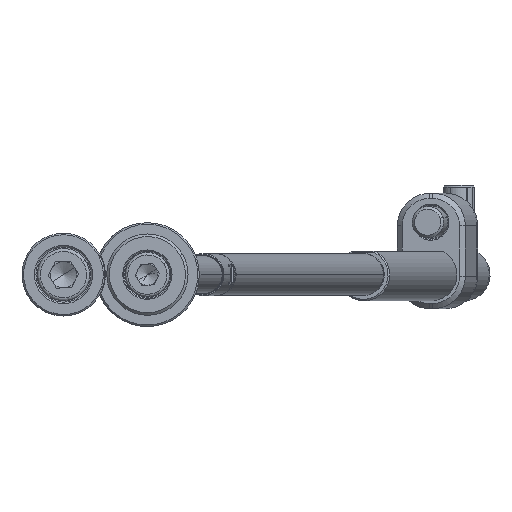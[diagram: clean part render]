
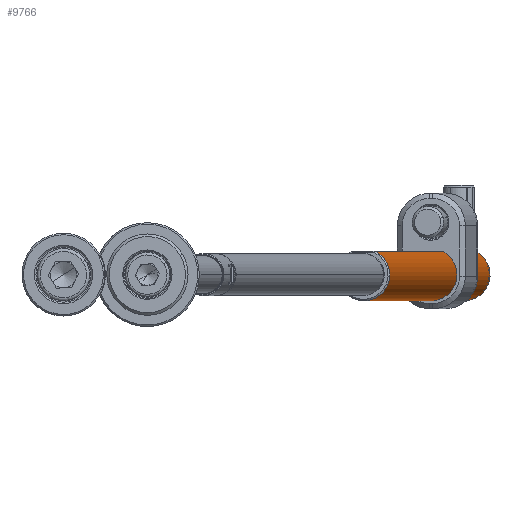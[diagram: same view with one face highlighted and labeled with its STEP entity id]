
A CAD part, front view. The second image highlights one B-rep face of the part: STEP entity #9766.
In plain terms, the highlighted cylindrical face has radius 5 mm (diameter 10 mm), a partial arc.
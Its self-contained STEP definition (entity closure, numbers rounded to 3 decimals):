
#122 = AXIS2_PLACEMENT_3D ( 'NONE', #2699, #10326, #3646 ) ;
#201 = CARTESIAN_POINT ( 'NONE',  ( 4.259, -2.621, 11.47 ) ) ;
#226 = CARTESIAN_POINT ( 'NONE',  ( 4.5, -2.179, 200. ) ) ;
#270 = CARTESIAN_POINT ( 'NONE',  ( 4.014, -2.982, 9.617 ) ) ;
#493 = CARTESIAN_POINT ( 'NONE',  ( -5., 0., 199.7 ) ) ;
#627 = VERTEX_POINT ( 'NONE', #493 ) ;
#724 = CARTESIAN_POINT ( 'NONE',  ( 4.438, -2.308, 8.074 ) ) ;
#1304 = CARTESIAN_POINT ( 'NONE',  ( 4.5, -2.179, 12.062 ) ) ;
#1405 = DIRECTION ( 'NONE',  ( 0., 0., -1. ) ) ;
#1416 = EDGE_CURVE ( 'NONE', #7580, #6971, #12528, .T. ) ;
#2433 = CARTESIAN_POINT ( 'NONE',  ( 4., -3., 10.198 ) ) ;
#2524 = LINE ( 'NONE', #226, #13211 ) ;
#2617 = DIRECTION ( 'NONE',  ( 0., 0., -1. ) ) ;
#2685 = CARTESIAN_POINT ( 'NONE',  ( 4.5, -2.179, 200. ) ) ;
#2699 = CARTESIAN_POINT ( 'NONE',  ( 0., 0., 200. ) ) ;
#2825 = ORIENTED_EDGE ( 'NONE', *, *, #13248, .F. ) ;
#3232 = ORIENTED_EDGE ( 'NONE', *, *, #11389, .T. ) ;
#3646 = DIRECTION ( 'NONE',  ( -1., 0., 0. ) ) ;
#3663 = CARTESIAN_POINT ( 'NONE',  ( 0., 0., 0.3 ) ) ;
#4347 = VERTEX_POINT ( 'NONE', #7141 ) ;
#4515 = FACE_OUTER_BOUND ( 'NONE', #4896, .T. ) ;
#4541 = CARTESIAN_POINT ( 'NONE',  ( 4.5, -2.179, 0.3 ) ) ;
#4603 = CARTESIAN_POINT ( 'NONE',  ( 4.203, -2.709, 11.303 ) ) ;
#4896 = EDGE_LOOP ( 'NONE', ( #11038, #3232, #8923, #2825, #11428, #12684 ) ) ;
#4963 = VERTEX_POINT ( 'NONE', #4541 ) ;
#5373 = CIRCLE ( 'NONE', #11105, 5. ) ;
#5674 = CARTESIAN_POINT ( 'NONE',  ( 4.438, -2.307, 11.926 ) ) ;
#5679 = VERTEX_POINT ( 'NONE', #9637 ) ;
#6340 = CARTESIAN_POINT ( 'NONE',  ( 4.5, -2.179, 12.062 ) ) ;
#6594 = CARTESIAN_POINT ( 'NONE',  ( 4.5, -2.179, 199.7 ) ) ;
#6823 = CARTESIAN_POINT ( 'NONE',  ( 4., -3., 9.809 ) ) ;
#6971 = VERTEX_POINT ( 'NONE', #6340 ) ;
#7141 = CARTESIAN_POINT ( 'NONE',  ( -5., 0., 0.3 ) ) ;
#7220 = EDGE_CURVE ( 'NONE', #4347, #4963, #13501, .T. ) ;
#7237 = CARTESIAN_POINT ( 'NONE',  ( -5., 0., 200. ) ) ;
#7580 = VERTEX_POINT ( 'NONE', #6594 ) ;
#7750 = B_SPLINE_CURVE_WITH_KNOTS ( 'NONE', 3,
 ( #1304, #5674, #10058, #201, #4603, #8976, #13331, #10125, #2433, #6823, #270, #11203, #9042, #13409, #11557, #11483, #724, #13632 ),
 .UNSPECIFIED., .F., .F.,
 ( 4, 2, 2, 2, 2, 2, 2, 2, 4 ),
 ( 0., 0.001, 0.001, 0.002, 0.002, 0.003, 0.003, 0.004, 0.005 ),
 .UNSPECIFIED. ) ;
#8474 = AXIS2_PLACEMENT_3D ( 'NONE', #3663, #11408, #9186 ) ;
#8872 = CARTESIAN_POINT ( 'NONE',  ( 0., 0., 199.7 ) ) ;
#8923 = ORIENTED_EDGE ( 'NONE', *, *, #7220, .T. ) ;
#8976 = CARTESIAN_POINT ( 'NONE',  ( 4.108, -2.851, 10.952 ) ) ;
#9042 = CARTESIAN_POINT ( 'NONE',  ( 4.107, -2.852, 9.051 ) ) ;
#9186 = DIRECTION ( 'NONE',  ( 1., 0., 0. ) ) ;
#9637 = CARTESIAN_POINT ( 'NONE',  ( 4.5, -2.179, 7.938 ) ) ;
#9766 = ADVANCED_FACE ( 'NONE', ( #4515 ), #11326, .T. ) ;
#10058 = CARTESIAN_POINT ( 'NONE',  ( 4.376, -2.421, 11.781 ) ) ;
#10125 = CARTESIAN_POINT ( 'NONE',  ( 4.015, -2.98, 10.396 ) ) ;
#10326 = DIRECTION ( 'NONE',  ( 0., 0., -1. ) ) ;
#10399 = LINE ( 'NONE', #7237, #11550 ) ;
#11017 = VECTOR ( 'NONE', #2617, 1000. ) ;
#11038 = ORIENTED_EDGE ( 'NONE', *, *, #11597, .T. ) ;
#11105 = AXIS2_PLACEMENT_3D ( 'NONE', #8872, #1405, #13303 ) ;
#11203 = CARTESIAN_POINT ( 'NONE',  ( 4.068, -2.908, 9.236 ) ) ;
#11226 = DIRECTION ( 'NONE',  ( 0., 0., -1. ) ) ;
#11326 = CYLINDRICAL_SURFACE ( 'NONE', #122, 5. ) ;
#11389 = EDGE_CURVE ( 'NONE', #627, #4347, #10399, .T. ) ;
#11408 = DIRECTION ( 'NONE',  ( 0., 0., 1. ) ) ;
#11428 = ORIENTED_EDGE ( 'NONE', *, *, #11940, .F. ) ;
#11483 = CARTESIAN_POINT ( 'NONE',  ( 4.376, -2.422, 8.22 ) ) ;
#11550 = VECTOR ( 'NONE', #12458, 1000. ) ;
#11557 = CARTESIAN_POINT ( 'NONE',  ( 4.258, -2.623, 8.532 ) ) ;
#11597 = EDGE_CURVE ( 'NONE', #7580, #627, #5373, .T. ) ;
#11940 = EDGE_CURVE ( 'NONE', #6971, #5679, #7750, .T. ) ;
#12458 = DIRECTION ( 'NONE',  ( 0., 0., -1. ) ) ;
#12528 = LINE ( 'NONE', #2685, #11017 ) ;
#12684 = ORIENTED_EDGE ( 'NONE', *, *, #1416, .F. ) ;
#13211 = VECTOR ( 'NONE', #11226, 1000. ) ;
#13248 = EDGE_CURVE ( 'NONE', #5679, #4963, #2524, .T. ) ;
#13303 = DIRECTION ( 'NONE',  ( 1., 0., 0. ) ) ;
#13331 = CARTESIAN_POINT ( 'NONE',  ( 4.069, -2.906, 10.771 ) ) ;
#13409 = CARTESIAN_POINT ( 'NONE',  ( 4.202, -2.711, 8.701 ) ) ;
#13501 = CIRCLE ( 'NONE', #8474, 5. ) ;
#13632 = CARTESIAN_POINT ( 'NONE',  ( 4.5, -2.179, 7.938 ) ) ;
